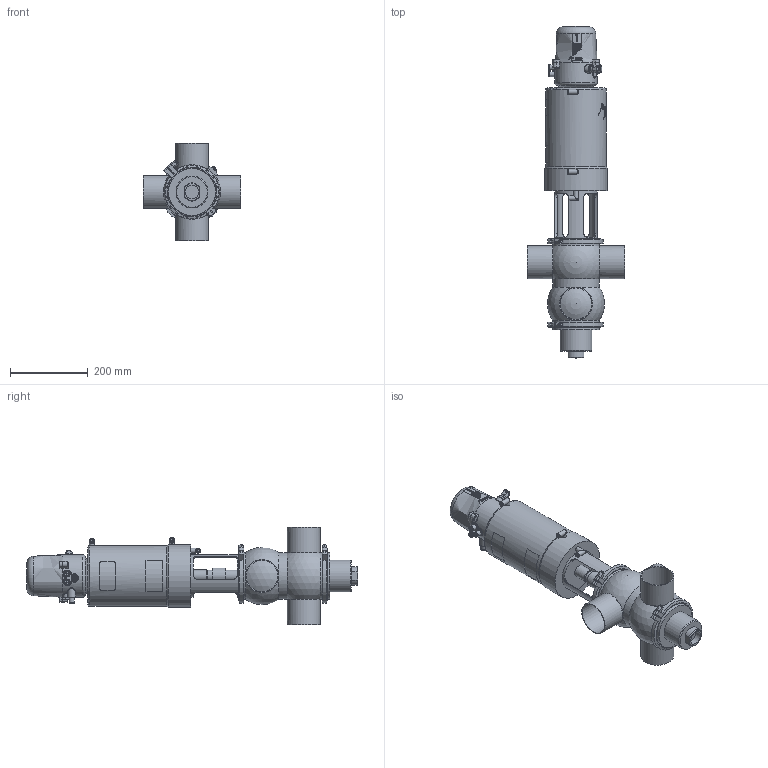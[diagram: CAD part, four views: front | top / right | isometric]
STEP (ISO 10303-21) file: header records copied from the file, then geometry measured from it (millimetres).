
FILE_DESCRIPTION (( 'STEP AP214' ), '1' );
FILE_NAME ('INNOVA P CB-90 W DIN 080 & C-TOP S_10.250.16.0015.STEP', '2024-08-09T11:38:45', ( '' ), ( '' ), 'SwSTEP 2.0', 'SolidWorks 2023', '' );
FILE_SCHEMA (( 'AUTOMOTIVE_DESIGN' ));
Length unit declared in the file: millimetre
Products named in the file (7): 10.251.15.0007_DIN 080; INNOVA P CB-90 W DIN 080 & C-TOP S_10.250.16.0015; 10.240.15.0001_DN 080; 10.250.15.0001_DIN 080; 10.250.15.0002_Type P T2; 10.250.15.0003_DN 080; 10.426.15.0001_C-TOP S - 3 EV
Assembly tree (7 placements, depth 2):
  INNOVA P CB-90 W DIN 080 & C-TOP S_10.250.16.0015
    10.250.15.0001_DIN 080
    10.250.15.0002_Type P T2
    10.426.15.0001_C-TOP S - 3 EV
    10.251.15.0007_DIN 080
    10.240.15.0001_DN 080  x2
    10.250.15.0003_DN 080
Bounding box: 250 x 851.5 x 250 mm (x, y, z)
Volume: 10605827.2 mm3; surface area: 700224.2 mm2
Topology: 7 solids, 7 shells, 1212 faces, 2930 edges, 1948 vertices
Faces by surface type: plane 414, cylinder 387, cone 204, bspline 162, torus 33, sphere 12
Full cylindrical faces by diameter (mm): 0.371 x17, 0.512 x16, 0.658 x16, 0.795 x16, 0.94 x15, 1.098 x15, 1.241 x13, 1.382 x13, 1.523 x11, 1.669 x10, 2.201 x1, 4.2 x2, 5 x1, 5.5 x2, 6 x4, 6.15 x3, 8 x5, 10 x1, 10.5 x3, 11 x4, 12.5 x9, 13 x6, 13.5 x2, 17 x3, 20 x2, 22 x2, 30.5 x2, 32 x1, 35 x1, 41 x1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
Entity records: 60359 total; most frequent: CARTESIAN_POINT 28726, ORIENTED_EDGE 4644, DIRECTION 3797, EDGE_CURVE 2322, VERTEX_POINT 1656, EDGE_LOOP 1636, AXIS2_PLACEMENT_3D 1568, FACE_OUTER_BOUND 1383
